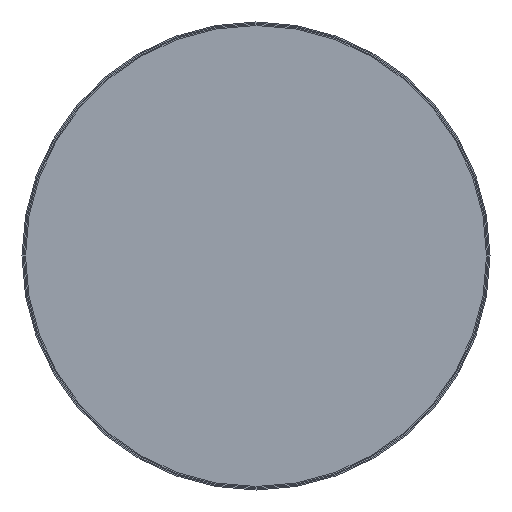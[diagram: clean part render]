
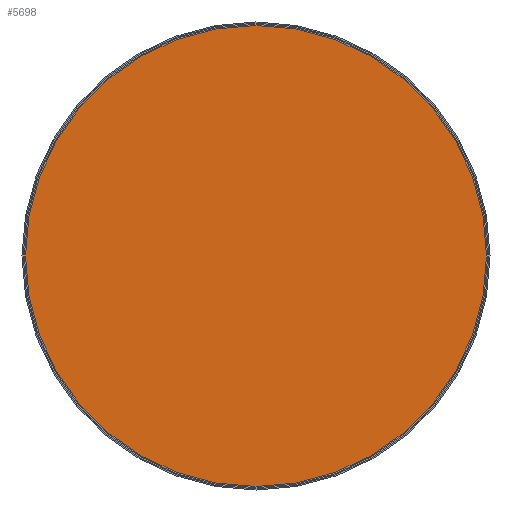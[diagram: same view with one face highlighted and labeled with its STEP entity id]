
A CAD part, front view. The second image highlights one B-rep face of the part: STEP entity #5698.
In plain terms, the highlighted planar face has unit normal (0, -1, 0).
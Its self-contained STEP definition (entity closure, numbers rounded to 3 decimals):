
#395=PLANE('',#6216);
#2030=FACE_OUTER_BOUND('',#2396,.T.);
#2396=EDGE_LOOP('',(#5307));
#2546=CIRCLE('',#6215,197.);
#3048=VERTEX_POINT('',#9407);
#3805=EDGE_CURVE('',#3048,#3048,#2546,.T.);
#5307=ORIENTED_EDGE('',*,*,#3805,.F.);
#5698=ADVANCED_FACE('',(#2030),#395,.T.);
#6215=AXIS2_PLACEMENT_3D('',#9409,#7763,#7764);
#6216=AXIS2_PLACEMENT_3D('',#9410,#7765,#7766);
#7763=DIRECTION('center_axis',(0.,1.,0.));
#7764=DIRECTION('ref_axis',(1.,0.,0.));
#7765=DIRECTION('center_axis',(0.,-1.,0.));
#7766=DIRECTION('ref_axis',(1.,0.,0.));
#9407=CARTESIAN_POINT('',(-197.,5.,0.));
#9409=CARTESIAN_POINT('Origin',(0.,5.,0.));
#9410=CARTESIAN_POINT('Origin',(0.,5.,0.));
